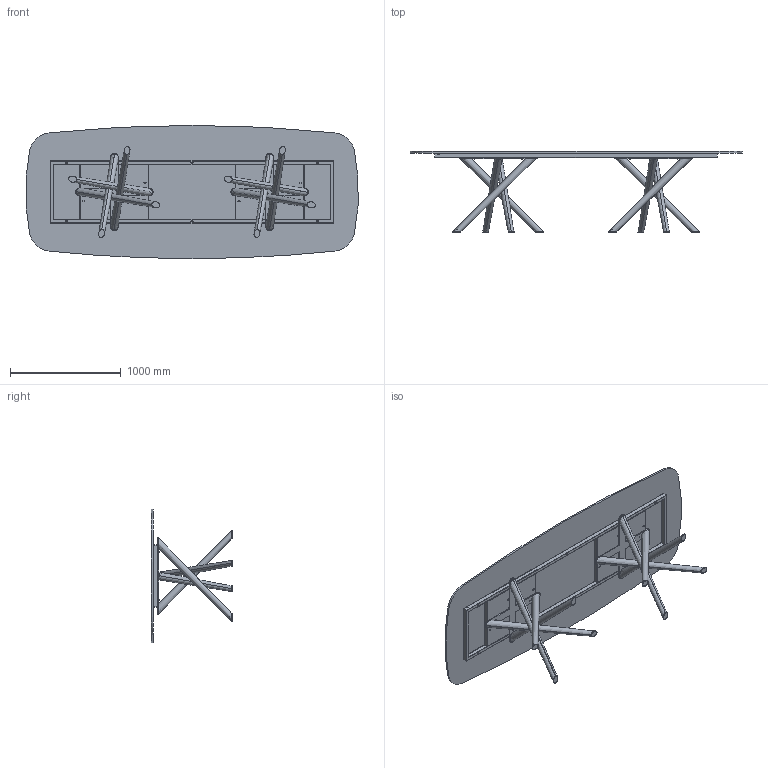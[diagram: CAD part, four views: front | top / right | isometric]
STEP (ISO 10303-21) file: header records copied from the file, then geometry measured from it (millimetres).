
FILE_DESCRIPTION (( 'STEP AP203' ), '1' );
FILE_NAME ('BA44G.STEP', '2024-08-08T06:08:06', ( '' ), ( '' ), 'SwSTEP 2.0', 'SolidWorks 2022', '' );
FILE_SCHEMA (( 'CONFIG_CONTROL_DESIGN' ));
Length unit declared in the file: millimetre
Products named in the file (12): M8xXXmm_M8x20mm; 434070-00-PIEDINO TPV GOMMA NERO D. 30x8max18; C4XCRXX-00-Piani Sagomati in Cristallo_3000 x 1200; TTAV03_02-06-VASSOIO IRRIGIDIMENTO TELAIO UNIVERSALE RETTANGOLARE; rondella M8_8X16; BAB000000_02-00-basamento pali conificati; BAB000000_01-00-Croce Superiore baly; BAB000000-00-BALY BASE GREZZA; TTAV03-06-TELAIO UNIVERSALE X TAVOLI 300-340cm; TTAV03_01-06-RING TUBO TELAIO UNIVERSALE X TAVOLI 300-340cm; BA44G; Parte5^BAB000000-00-BALY BASE GREZZA
Assembly tree (34 placements, depth 3):
  BA44G
    C4XCRXX-00-Piani Sagomati in Cristallo_3000 x 1200
    TTAV03-06-TELAIO UNIVERSALE X TAVOLI 300-340cm
      TTAV03_01-06-RING TUBO TELAIO UNIVERSALE X TAVOLI 300-340cm
      TTAV03_02-06-VASSOIO IRRIGIDIMENTO TELAIO UNIVERSALE RETTANGOLARE  x2
    BAB000000-00-BALY BASE GREZZA  x2
      BAB000000_01-00-Croce Superiore baly
      BAB000000_02-00-basamento pali conificati
      Parte5^BAB000000-00-BALY BASE GREZZA
    434070-00-PIEDINO TPV GOMMA NERO D. 30x8max18  x8
    M8xXXmm_M8x20mm  x8
    rondella M8_8X16  x8
Bounding box: 2991.72 x 730 x 1200 mm (x, y, z)
Volume: 59781458.8 mm3; surface area: 13252155.7 mm2
Topology: 54 solids, 54 shells, 1033 faces, 2337 edges, 1398 vertices
Faces by surface type: plane 430, cylinder 299, cone 152, torus 128, bspline 16, sphere 8
Entity records: 15247 total; most frequent: CARTESIAN_POINT 3785, DIRECTION 2061, ORIENTED_EDGE 1924, EDGE_CURVE 962, AXIS2_PLACEMENT_3D 758, VERTEX_POINT 596, LINE 545, VECTOR 545
